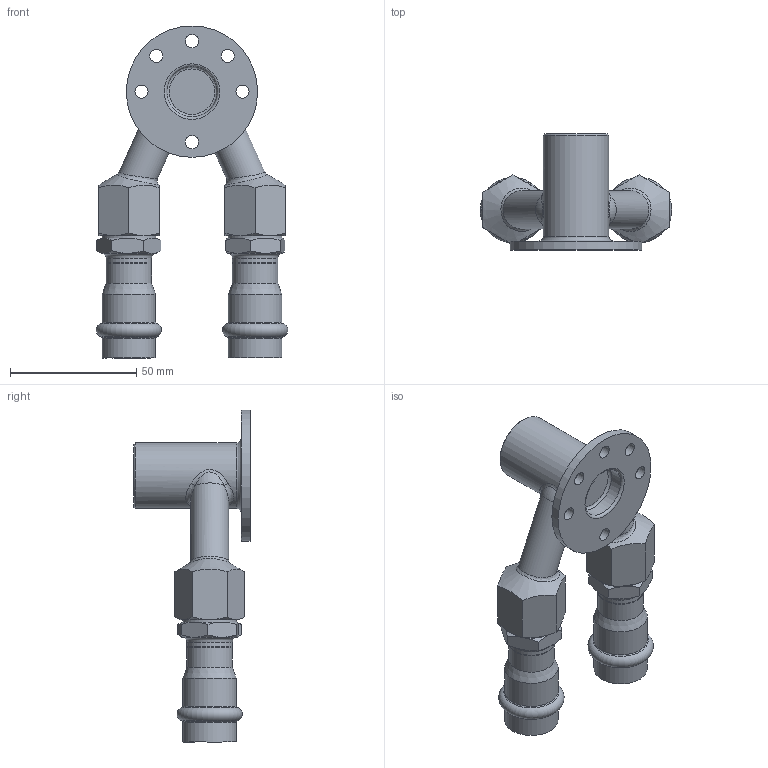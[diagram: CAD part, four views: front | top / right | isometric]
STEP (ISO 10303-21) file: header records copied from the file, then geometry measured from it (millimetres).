
FILE_DESCRIPTION((''),'2;1');
FILE_NAME('G:\Nirosan-Schmiedefeld\Technics\CAD\001 Serie 9.000\69478GZ\69478GZ181218H(1).stp','2019-01-02T12:40:35',('herberg'),(''),'Autodesk Inventor 2009','Autodesk Inventor 2009','');
FILE_SCHEMA(('AUTOMOTIVE_DESIGN { 1 0 10303 214 1 1 1 1 }'));
Length unit declared in the file: millimetre
Products named in the file (5): 69478GZ181218H(1); 69478igz12h(0); 69243G1812H(2); 69HM18P(1); AG1812(1)
Assembly tree (5 placements, depth 3):
  69478GZ181218H(1)
    69478igz12h(0)
    69243G1812H(2)  x2
      69HM18P(1)
      AG1812(1)
Bounding box: 75.86 x 46 x 131.5 mm (x, y, z)
Volume: 49413.5 mm3; surface area: 38482.9 mm2
Topology: 5 solids, 5 shells, 156 faces, 360 edges, 219 vertices
Faces by surface type: cone 52, plane 41, bspline 31, cylinder 22, torus 10
Full cylindrical faces by diameter (mm): 11 x2, 15 x4, 18 x4, 18.15 x4, 18.631 x1, 20 x1, 21.15 x4, 26 x1, 52 x1
Entity records: 5989 total; most frequent: CARTESIAN_POINT 3800, ORIENTED_EDGE 406, DIRECTION 392, EDGE_CURVE 203, AXIS2_PLACEMENT_3D 187, EDGE_LOOP 184, VERTEX_POINT 149, FACE_OUTER_BOUND 112
